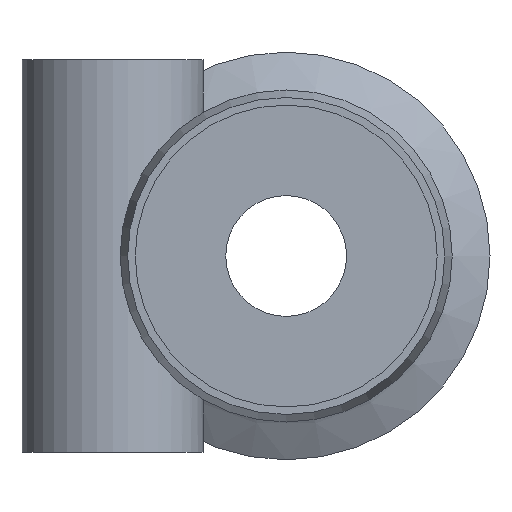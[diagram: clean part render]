
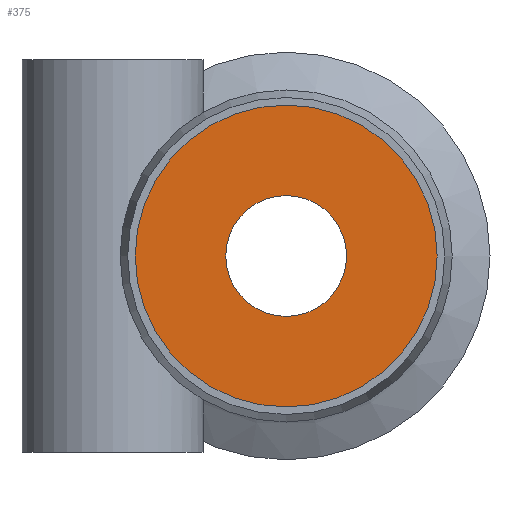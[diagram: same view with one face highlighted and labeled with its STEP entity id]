
A CAD part, left-side view. The second image highlights one B-rep face of the part: STEP entity #375.
In plain terms, the highlighted planar face has unit normal (-1, 0, 0).
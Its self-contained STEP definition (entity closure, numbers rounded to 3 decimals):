
#320=CARTESIAN_POINT('',(-16.75,-2.0,0.));
#321=VERTEX_POINT('',#320);
#322=CARTESIAN_POINT('',(-16.75,0.0,0.0));
#323=DIRECTION('',(1.0,0.0,0.0));
#324=DIRECTION('',(0.0,1.0,0.0));
#325=AXIS2_PLACEMENT_3D('',#322,#323,#324);
#326=CIRCLE('',#325,2.0);
#327=EDGE_CURVE('',#321,#321,#326,.T.);
#356=CARTESIAN_POINT('',(-16.75,2.5,0.0));
#357=DIRECTION('',(-1.0,0.0,0.0));
#358=DIRECTION('',(0.0,0.0,1.0));
#359=AXIS2_PLACEMENT_3D('',#356,#357,#358);
#360=PLANE('',#359);
#361=CARTESIAN_POINT('',(-16.75,5.0,0.0));
#362=VERTEX_POINT('',#361);
#363=CARTESIAN_POINT('',(-16.75,0.0,0.0));
#364=DIRECTION('',(1.0,0.0,0.0));
#365=DIRECTION('',(0.0,1.0,0.0));
#366=AXIS2_PLACEMENT_3D('',#363,#364,#365);
#367=CIRCLE('',#366,5.0);
#368=EDGE_CURVE('',#362,#362,#367,.T.);
#369=ORIENTED_EDGE('',*,*,#368,.F.);
#370=EDGE_LOOP('',(#369));
#371=FACE_OUTER_BOUND('',#370,.T.);
#372=ORIENTED_EDGE('',*,*,#327,.T.);
#373=EDGE_LOOP('',(#372));
#374=FACE_BOUND('',#373,.T.);
#375=ADVANCED_FACE('',(#371,#374),#360,.T.);
